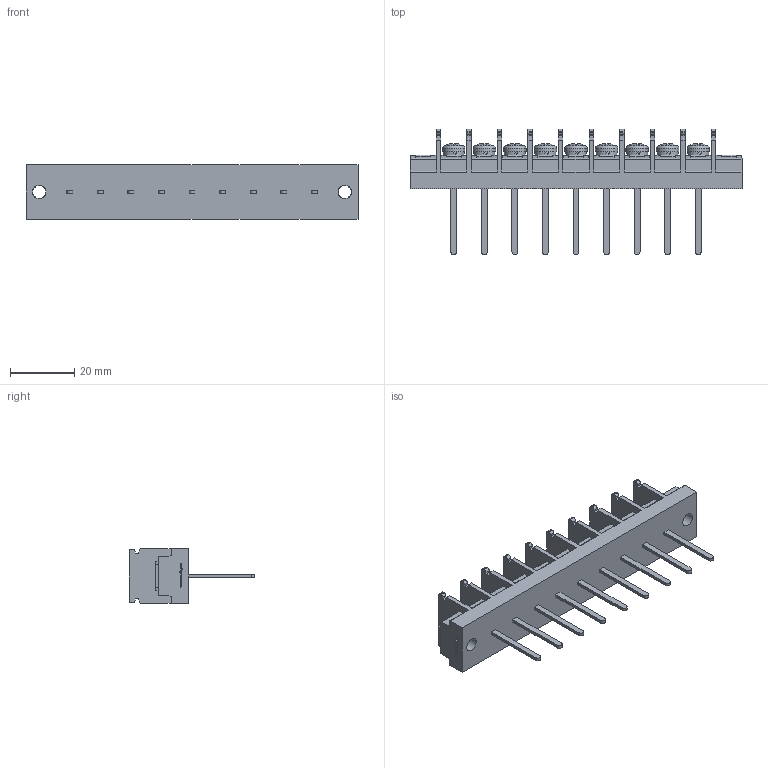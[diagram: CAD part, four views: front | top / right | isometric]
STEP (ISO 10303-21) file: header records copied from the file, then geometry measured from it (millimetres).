
FILE_DESCRIPTION(/* description */ ('Alibre Inc.'),/* implementation_level */ '2;1');
FILE_NAME(/* name */ 'export-446301ED-10B3-447C-8922-CC1C7EFF9F7F',/* time_stamp */ '2021-02-02T11:25:09+09:00',/* author */ (''),/* organization */ (''),/* preprocessor_version */ 'ST-DEVELOPER v17',/* originating_system */ 'Alibre',/* authorisation */ '');
FILE_SCHEMA (('CONFIG_CONTROL_DESIGN'));
Length unit declared in the file: millimetre
Bounding box: 103.2 x 39 x 17 mm (x, y, z)
Volume: 18502.5 mm3; surface area: 12590.7 mm2
Topology: 1 solids, 10 shells, 1169 faces, 3209 edges, 2131 vertices
Faces by surface type: plane 838, cylinder 155, bspline 104, cone 45, torus 18, sphere 9
Full cylindrical faces by diameter (mm): 4 x20, 4.2 x2, 6.5 x9, 7 x9
Entity records: 35615 total; most frequent: CARTESIAN_POINT 7537, ORIENTED_EDGE 6226, DIRECTION 4670, EDGE_CURVE 3113, VECTOR 2190, LINE 2190, VERTEX_POINT 2093, AXIS2_PLACEMENT_3D 1646
